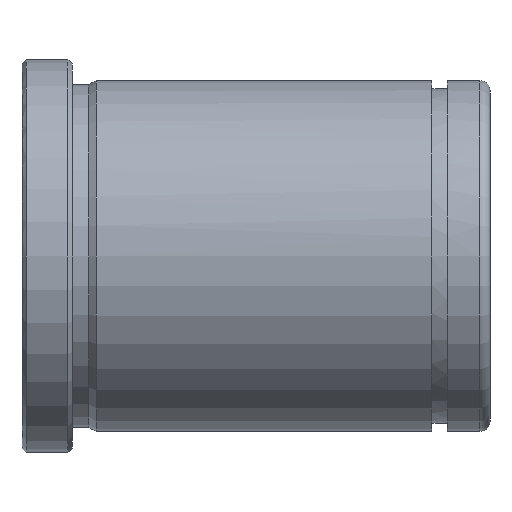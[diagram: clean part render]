
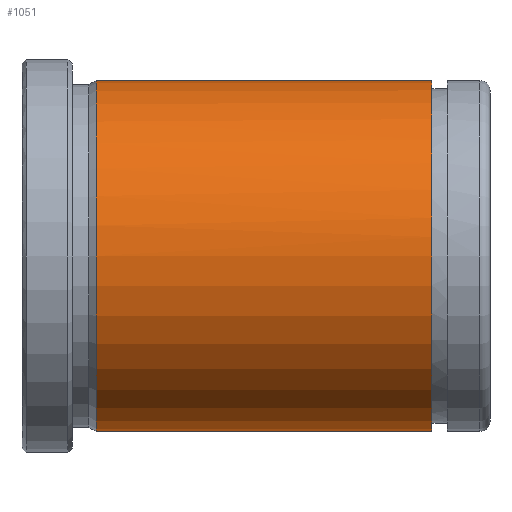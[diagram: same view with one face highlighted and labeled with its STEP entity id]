
A CAD part, front view. The second image highlights one B-rep face of the part: STEP entity #1051.
In plain terms, the highlighted cylindrical face has radius 21 mm (diameter 42 mm), a partial arc.
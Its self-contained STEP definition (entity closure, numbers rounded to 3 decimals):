
#851=CARTESIAN_POINT('Vertex',(8.866,0.,-21.)) ;
#858=CARTESIAN_POINT('Vertex',(8.866,0.,21.)) ;
#887=CARTESIAN_POINT('Axis2P3D Location',(8.866,0.,0.)) ;
#891=CARTESIAN_POINT('Vertex',(8.866,-21.,0.)) ;
#894=CARTESIAN_POINT('Axis2P3D Location',(8.866,0.,0.)) ;
#985=CARTESIAN_POINT('Line Origine',(112.,0.,21.)) ;
#989=CARTESIAN_POINT('Vertex',(49.05,0.,21.)) ;
#1006=CARTESIAN_POINT('Vertex',(49.05,0.,-21.)) ;
#1009=CARTESIAN_POINT('Line Origine',(112.,0.,-21.)) ;
#1023=CARTESIAN_POINT('Axis2P3D Location',(112.,0.,0.)) ;
#1028=CARTESIAN_POINT('Axis2P3D Location',(49.05,0.,0.)) ;
#1032=CARTESIAN_POINT('Vertex',(49.05,-21.,0.)) ;
#1036=CARTESIAN_POINT('Control Point',(49.05,0.,21.)) ;
#1037=CARTESIAN_POINT('Control Point',(49.05,-6.597,21.)) ;
#1038=CARTESIAN_POINT('Control Point',(49.05,-13.201,18.417)) ;
#1039=CARTESIAN_POINT('Control Point',(49.05,-18.417,13.201)) ;
#1040=CARTESIAN_POINT('Control Point',(49.05,-21.,6.597)) ;
#1041=CARTESIAN_POINT('Control Point',(49.05,-21.,0.)) ;
#888=DIRECTION('Axis2P3D Direction',(1.,0.,-0.)) ;
#895=DIRECTION('Axis2P3D Direction',(1.,0.,-0.)) ;
#986=DIRECTION('Vector Direction',(-1.,0.,0.)) ;
#1010=DIRECTION('Vector Direction',(-1.,0.,0.)) ;
#1024=DIRECTION('Axis2P3D Direction',(-1.,-0.,-0.)) ;
#1025=DIRECTION('Axis2P3D XDirection',(0.,0.,-1.)) ;
#1029=DIRECTION('Axis2P3D Direction',(-1.,-0.,-0.)) ;
#889=AXIS2_PLACEMENT_3D('Circle Axis2P3D',#887,#888,$) ;
#896=AXIS2_PLACEMENT_3D('Circle Axis2P3D',#894,#895,$) ;
#1026=AXIS2_PLACEMENT_3D('Cylinder Axis2P3D',#1023,#1024,#1025) ;
#1030=AXIS2_PLACEMENT_3D('Circle Axis2P3D',#1028,#1029,$) ;
#1044=ORIENTED_EDGE('',*,*,#1013,.T.) ;
#1045=ORIENTED_EDGE('',*,*,#1034,.F.) ;
#1046=ORIENTED_EDGE('',*,*,#1042,.F.) ;
#1047=ORIENTED_EDGE('',*,*,#991,.T.) ;
#1048=ORIENTED_EDGE('',*,*,#898,.T.) ;
#1049=ORIENTED_EDGE('',*,*,#893,.T.) ;
#987=VECTOR('Line Direction',#986,1.) ;
#1011=VECTOR('Line Direction',#1010,1.) ;
#1051=ADVANCED_FACE('553-30X56',(#1050),#1027,.T.) ;
#1035=B_SPLINE_CURVE_WITH_KNOTS('',5,(#1036,#1037,#1038,#1039,#1040,#1041),.UNSPECIFIED.,.F.,.U.,(6,6),(-16.493,16.493),.UNSPECIFIED.) ;
#890=CIRCLE('generated circle',#889,21.) ;
#897=CIRCLE('generated circle',#896,21.) ;
#1031=CIRCLE('generated circle',#1030,21.) ;
#1027=CYLINDRICAL_SURFACE('generated cylinder',#1026,21.) ;
#893=EDGE_CURVE('',#892,#852,#890,.T.) ;
#898=EDGE_CURVE('',#859,#892,#897,.T.) ;
#991=EDGE_CURVE('',#990,#859,#988,.T.) ;
#1013=EDGE_CURVE('',#852,#1007,#1012,.F.) ;
#1034=EDGE_CURVE('',#1033,#1007,#1031,.F.) ;
#1042=EDGE_CURVE('',#990,#1033,#1035,.T.) ;
#1043=EDGE_LOOP('',(#1044,#1045,#1046,#1047,#1048,#1049)) ;
#1050=FACE_OUTER_BOUND('',#1043,.T.) ;
#988=LINE('Line',#985,#987) ;
#1012=LINE('Line',#1009,#1011) ;
#852=VERTEX_POINT('',#851) ;
#859=VERTEX_POINT('',#858) ;
#892=VERTEX_POINT('',#891) ;
#990=VERTEX_POINT('',#989) ;
#1007=VERTEX_POINT('',#1006) ;
#1033=VERTEX_POINT('',#1032) ;
